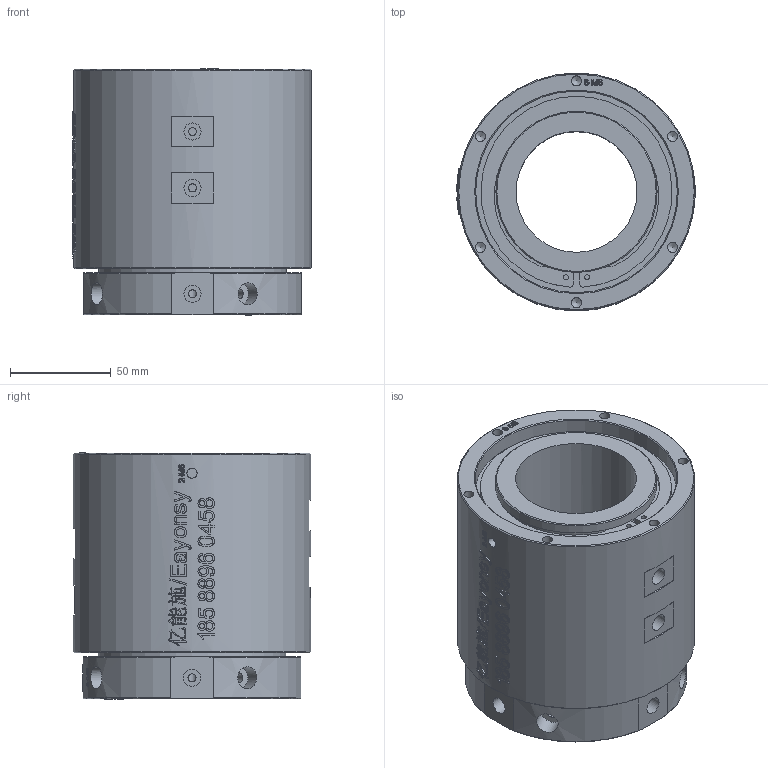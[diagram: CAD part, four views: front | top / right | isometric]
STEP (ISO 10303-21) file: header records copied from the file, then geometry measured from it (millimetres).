
FILE_DESCRIPTION(/* description */ (''),/* implementation_level */ '2;1');
FILE_NAME(/* name */ 'YQ0401-D60-3D模型.stp',/* time_stamp */ '2025-08-06T11:31:26+08:00',/* author */ (''),/* organization */ (''),/* preprocessor_version */ 'ST-DEVELOPER v16.7',/* originating_system */ 'SIEMENS PLM Software NX 12.0',/* authorisation */ '');
FILE_SCHEMA (('AUTOMOTIVE_DESIGN { 1 0 10303 214 3 1 1 1 }'));
Products named in the file (1): Admi3F746D2Ejrs1
Bounding box: 118.3 x 117.8 x 122.4 mm (x, y, z)
Volume: 911242 mm3; surface area: 104152.8 mm2
Topology: 1 solids, 1 shells, 1368 faces, 3720 edges, 2486 vertices
Faces by surface type: extrusion 737, plane 456, cylinder 92, bspline 61, cone 22
Full cylindrical faces by diameter (mm): 2.5 x2, 4 x12, 4.1 x4, 4.2 x4, 5 x12, 6.8 x4, 8.5 x8, 11 x4, 60 x1, 76.5 x1, 80 x1, 93 x1, 100 x1, 117.8 x1
Entity records: 53724 total; most frequent: CARTESIAN_POINT 25066, ORIENTED_EDGE 7194, EDGE_CURVE 3597, B_SPLINE_CURVE_WITH_KNOTS 3524, DIRECTION 3005, VERTEX_POINT 2448, EDGE_LOOP 1585, ADVANCED_FACE 1368
